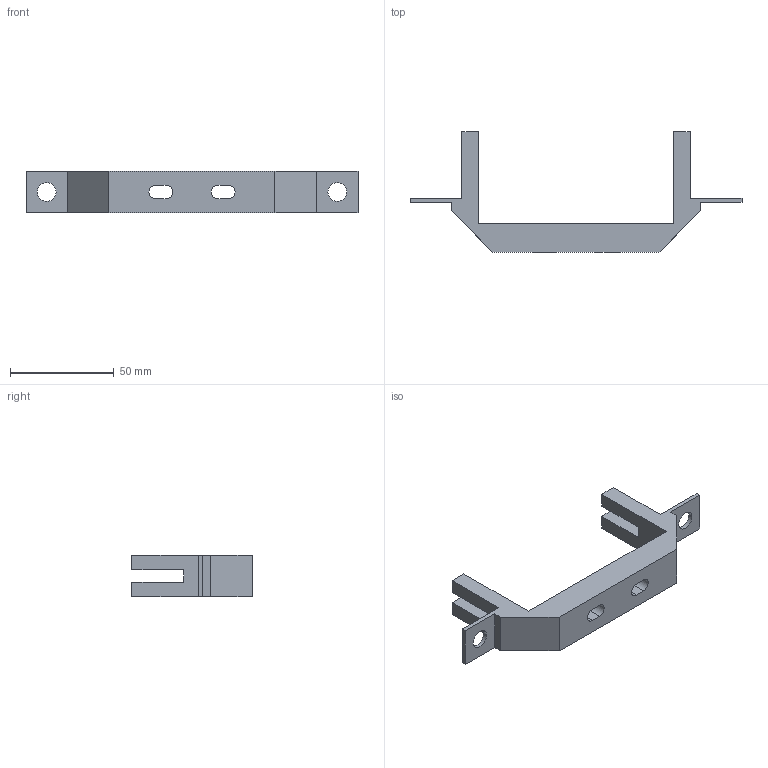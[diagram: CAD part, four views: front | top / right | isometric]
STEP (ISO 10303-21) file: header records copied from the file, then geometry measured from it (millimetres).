
FILE_DESCRIPTION (( 'STEP AP214' ), '1' );
FILE_NAME ('ﾎ魵瑙韃 ﾏﾏﾍ-0-ﾈ2-ﾓﾕﾋ3-ﾊﾝﾀﾇ.STEP', '2023-05-25T07:01:35', ( '' ), ( '' ), 'SwSTEP 2.0', 'SolidWorks 2018', '' );
FILE_SCHEMA (( 'AUTOMOTIVE_DESIGN' ));
Length unit declared in the file: millimetre
Products named in the file (1): ﾎ魵瑙韃 ﾏﾏﾍ-0-ﾈ2-ﾓﾕﾋ3-ﾊﾝﾀﾇ
Bounding box: 160 x 58 x 20 mm (x, y, z)
Volume: 37337.7 mm3; surface area: 15312.9 mm2
Topology: 1 solids, 1 shells, 52 faces, 144 edges, 96 vertices
Faces by surface type: plane 38, cylinder 14
Entity records: 1706 total; most frequent: CARTESIAN_POINT 293, ORIENTED_EDGE 288, DIRECTION 278, EDGE_CURVE 144, LINE 116, VECTOR 116, VERTEX_POINT 96, AXIS2_PLACEMENT_3D 81
